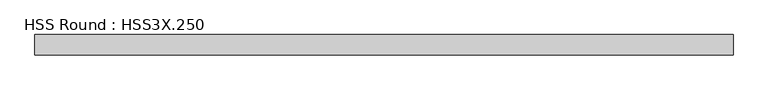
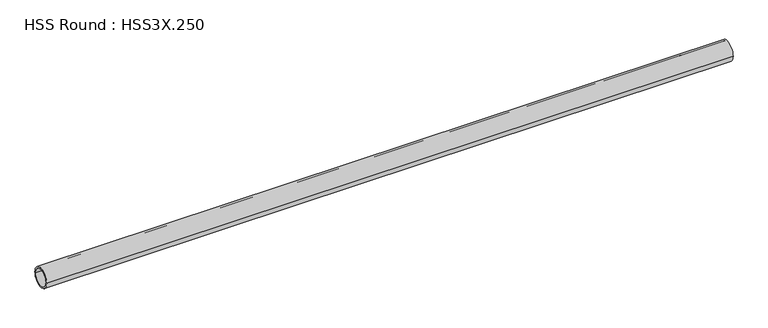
"""IFC4 building model written with IfcOpenShell, lengths in millimetres: member geometry, HSS Round : HSS3X.250."""

from ifc_helpers import new_model, si_unit, point, frame, origin, origin_2d, place, context, project, spatial, circle_curve, trimmed, segment, composite_curve, outline, extrude, source, transform, mapped, element, save


def hss_round_hss3x_250_a893225f(model_context):
    return source(origin(), model_context, "Body", "SweptSolid", [
        extrude(outline(composite_curve([segment(trimmed(circle_curve(origin_2d(), 38.1), [point((-38.1, 0.0))], [point((38.1, 0.0))], False, "CARTESIAN"), True, "CONTINUOUS"), segment(trimmed(circle_curve(origin_2d(), 38.1), [point((38.1, 0.0))], [point((-38.1, 0.0))], False, "CARTESIAN"), True, "CONTINUOUS")], self_intersect=False), holes=[composite_curve([segment(trimmed(circle_curve(origin_2d(), 31.75), [point((31.75, 0.0))], [point((-31.75, 0.0))], True, "CARTESIAN"), True, "CONTINUOUS"), segment(trimmed(circle_curve(origin_2d(), 31.75), [point((-31.75, 0.0))], [point((31.75, 0.0))], True, "CARTESIAN"), True, "CONTINUOUS")], self_intersect=False)]), frame((-1265.5151528, 0.0, 0.0), z_axis=(1.0, 0.0, 0.0), x_axis=(0.0, 1.0, 0.0)), (0.0, 0.0, 1.0), 2588.8850349),
    ])


if __name__ == "__main__":
    model = new_model("IFC4")
    model_context = context("Model", 3, world=origin())
    ifc_project = project(units=[si_unit("LENGTHUNIT", "METRE", prefix="MILLI")], contexts=[model_context])
    site = spatial("IfcSite", under=ifc_project)
    building = spatial("IfcBuilding", under=site)
    placement = place(None, origin())
    hss_round_hss3x_250_shape = hss_round_hss3x_250_a893225f(model_context)
    element("IfcMember", 1, ObjectType="HSS Round : HSS3X.250", at=placement, inside=building, context=model_context, shape_type="MappedRepresentation", body=[
        mapped(hss_round_hss3x_250_shape, transform((0.0, 0.0, 0.0), x_axis=(1.0, 0.0, 0.0), y_axis=(0.0, 1.0, 0.0), z_axis=(0.0, 0.0, 1.0))),
    ])
    save(model, "model.ifc")
